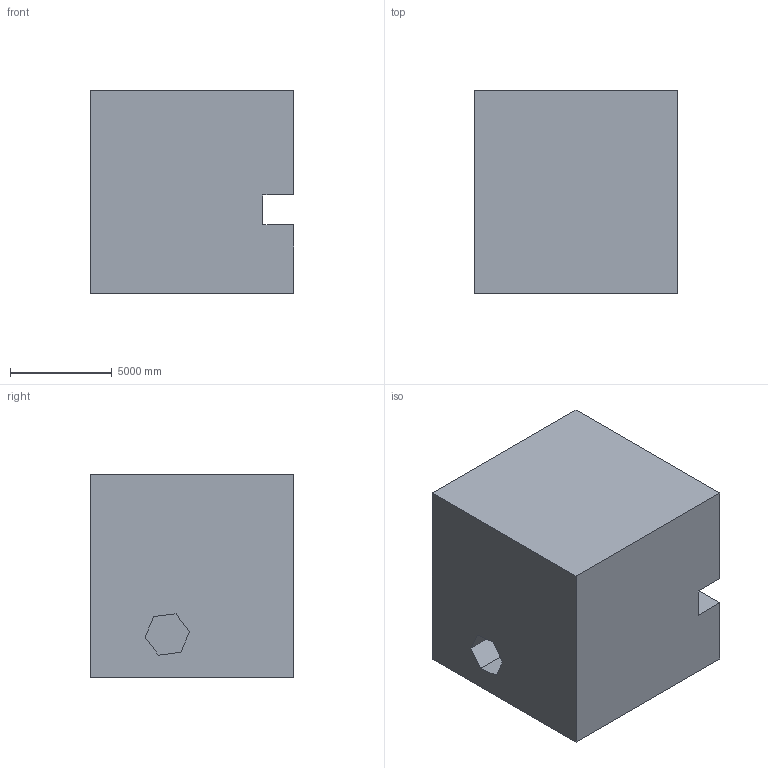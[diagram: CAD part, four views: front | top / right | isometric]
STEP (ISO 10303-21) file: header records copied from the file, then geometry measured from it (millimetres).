
FILE_DESCRIPTION (( 'STEP AP203' ), '1' );
FILE_NAME ('280.STEP', '2022-07-28T14:11:40', ( 'user' ), ( '' ), 'SwSTEP 2.0', 'SolidWorks 2021', '' );
FILE_SCHEMA (( 'CONFIG_CONTROL_DESIGN' ));
Length unit declared in the file: centimetre
Products named in the file (1): 280
Bounding box: 10000 x 10000 x 10000 mm (x, y, z)
Volume: 900278513638 mm3; surface area: 726244458.6 mm2
Topology: 1 solids, 1 shells, 25 faces, 69 edges, 46 vertices
Faces by surface type: plane 25
Entity records: 864 total; most frequent: CARTESIAN_POINT 141, ORIENTED_EDGE 138, DIRECTION 121, EDGE_CURVE 69, LINE 69, VECTOR 69, VERTEX_POINT 46, EDGE_LOOP 27
